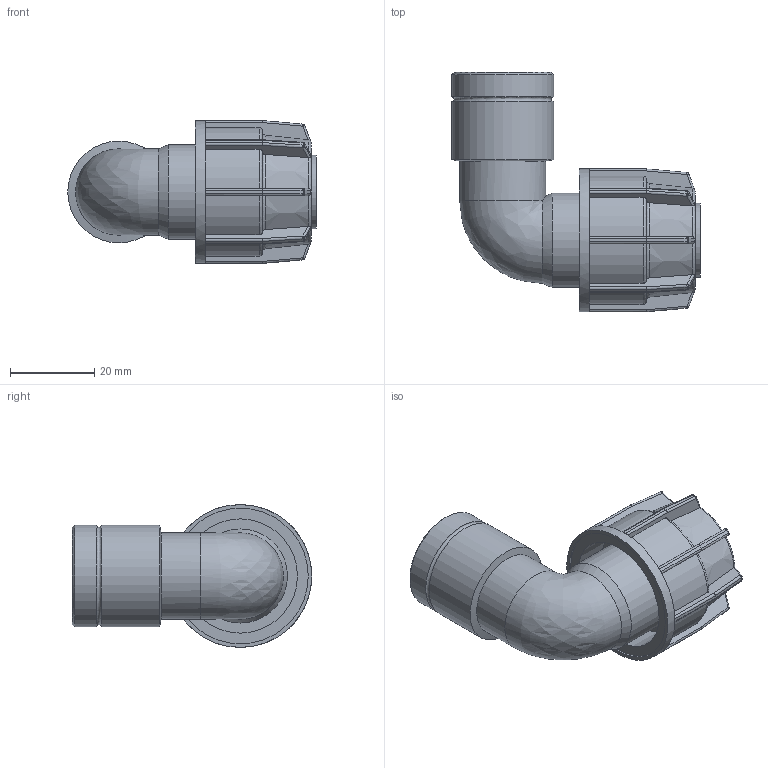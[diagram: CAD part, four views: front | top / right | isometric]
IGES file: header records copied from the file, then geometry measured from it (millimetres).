
Global section: file name: 041507016005.ipt; native system: Autodesk Inventor 2015; preprocessor: unknown; author: KIM; date: 20180409.130653; units: millimetre
Bounding box: 59.11 x 57 x 34 mm (x, y, z)
Volume: 21022.4 mm3; surface area: 14457.2 mm2
Topology: 1 solids, 1 shells, 275 faces, 662 edges, 384 vertices
Faces by surface type: plane 128, cylinder 78, sphere 32, revolution 25, cone 11, bspline 1
Full cylindrical faces by diameter (mm): 17.6 x1, 20.494 x1, 22.4 x1, 24.22 x2, 34 x1
